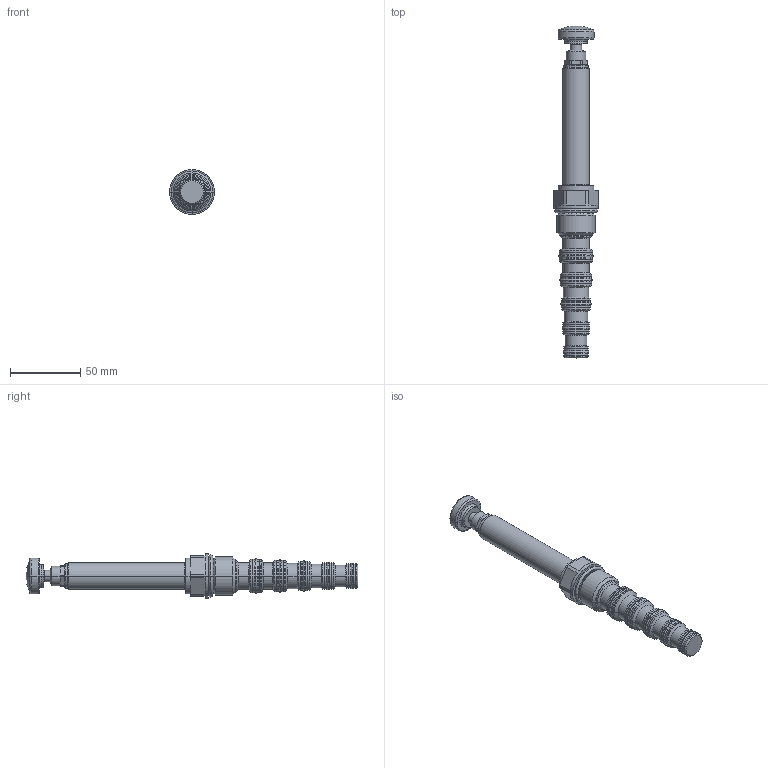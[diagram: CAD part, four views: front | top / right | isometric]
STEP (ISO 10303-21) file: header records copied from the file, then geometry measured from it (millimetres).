
FILE_DESCRIPTION((''),'2;1');
FILE_NAME('PRT0006','2009-03-02T',('JCS'),(''),'PRO/ENGINEER BY PARAMETRIC TECHNOLOGY CORPORATION, 2008010','PRO/ENGINEER BY PARAMETRIC TECHNOLOGY CORPORATION, 2008010','');
FILE_SCHEMA(('CONFIG_CONTROL_DESIGN'));
Length unit declared in the file: inch
Products named in the file (1): PRT0006
Bounding box: 31.75 x 235.53 x 31.75 mm (x, y, z)
Volume: 59146.5 mm3; surface area: 27966.9 mm2
Topology: 6 solids, 8 shells, 356 faces, 737 edges, 417 vertices
Faces by surface type: cylinder 120, cone 68, plane 60, torus 58, revolution 48, sphere 2
Entity records: 10275 total; most frequent: CARTESIAN_POINT 2530, DIRECTION 1773, ORIENTED_EDGE 1470, AXIS2_PLACEMENT_3D 752, EDGE_CURVE 735, CIRCLE 444, VERTEX_POINT 417, EDGE_LOOP 386
